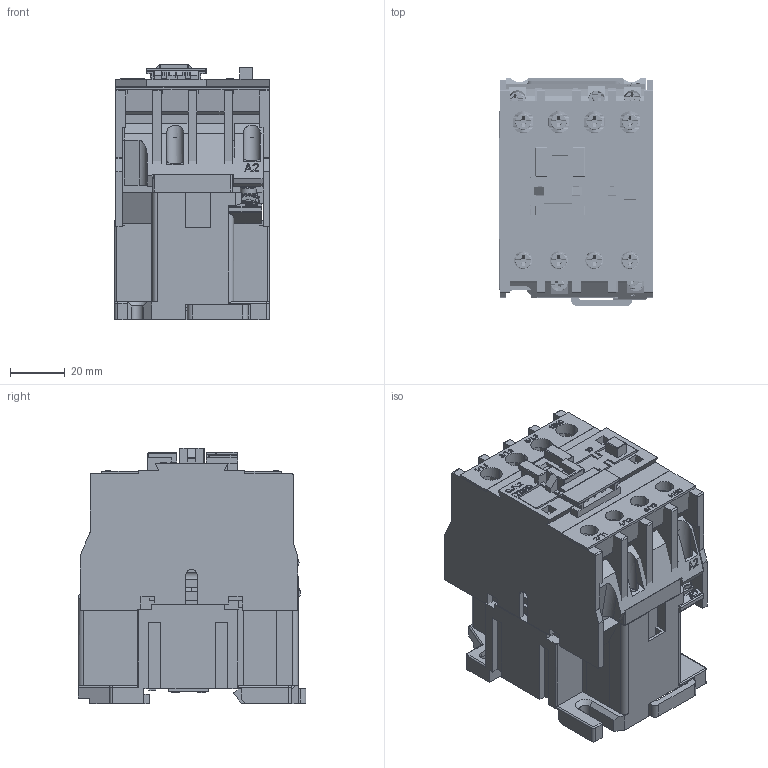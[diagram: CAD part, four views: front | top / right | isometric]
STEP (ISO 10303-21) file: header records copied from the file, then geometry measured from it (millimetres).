
FILE_DESCRIPTION((''),'2;1');
FILE_NAME('CJX2-2500_ASM','2023-07-25T16:52:56',('Administrator'),(''),'CREO PARAMETRIC BY PTC INC, 2020033','CREO PARAMETRIC BY PTC INC, 2020033','');
FILE_SCHEMA(('CONFIG_CONTROL_DESIGN'));
Products named in the file (18): CJX2-2500; CJX2-250003; CJX2-250004; CJX2-250005; CJX2-251000; CJX2-252000; CJX2S-09_AF1; CJX2-09000; M3_5X9_50002; 7_5X2_600; M3_5X9_50001_ASM; M3_5X180001; CJX2-2500_ASM
Assembly tree (28 placements, depth 3):
  CJX2-2500_ASM
    CJX2-2500
    CJX2-250003
    CJX2-250004
    CJX2-250005
    CJX2-2500
    CJX2-2500
    CJX2-251000
    CJX2-252000
    CJX2-251000
    CJX2-252000
    CJX2-2500
    CJX2S-09_AF1
    CJX2-09000
    M3_5X9_50001_ASM  x11
      M3_5X9_50002
      7_5X2_600
    M3_5X180001  x2
Bounding box: 56.4 x 83.2 x 93.3 mm (x, y, z)
Volume: 242339 mm3; surface area: 120476.3 mm2
Topology: 37 solids, 37 shells, 5311 faces, 15123 edges, 10083 vertices
Faces by surface type: plane 4380, cylinder 605, bspline 217, torus 74, cone 18, sphere 17
Entity records: 143545 total; most frequent: CARTESIAN_POINT 32626, ORIENTED_EDGE 24116, DIRECTION 20739, EDGE_CURVE 12058, VECTOR 11345, LINE 11345, VERTEX_POINT 7993, AXIS2_PLACEMENT_3D 4697
